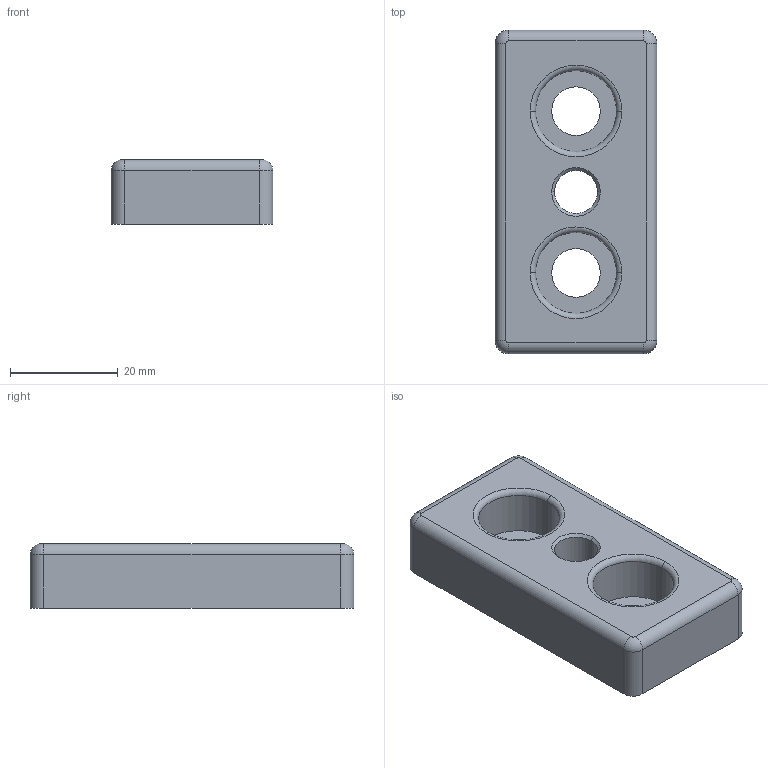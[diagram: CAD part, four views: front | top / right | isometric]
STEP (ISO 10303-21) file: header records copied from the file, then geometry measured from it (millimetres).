
FILE_DESCRIPTION (( 'STEP AP214' ), '1' );
FILE_NAME ('093t30600808r.STEP', '2013-01-15T12:28:09', ( '' ), ( '' ), 'SwSTEP 2.0', 'SolidWorks 2012', '' );
FILE_SCHEMA (( 'AUTOMOTIVE_DESIGN' ));
Length unit declared in the file: millimetre
Products named in the file (1): 093t30600808r
Bounding box: 30 x 60 x 12 mm (x, y, z)
Volume: 13648.9 mm3; surface area: 8638.3 mm2
Topology: 1 solids, 1 shells, 212 faces, 502 edges, 302 vertices
Faces by surface type: cylinder 100, torus 64, plane 44, cone 4
Entity records: 6190 total; most frequent: DIRECTION 1230, CARTESIAN_POINT 1017, ORIENTED_EDGE 1004, AXIS2_PLACEMENT_3D 515, EDGE_CURVE 502, VERTEX_POINT 302, CIRCLE 302, EDGE_LOOP 228
